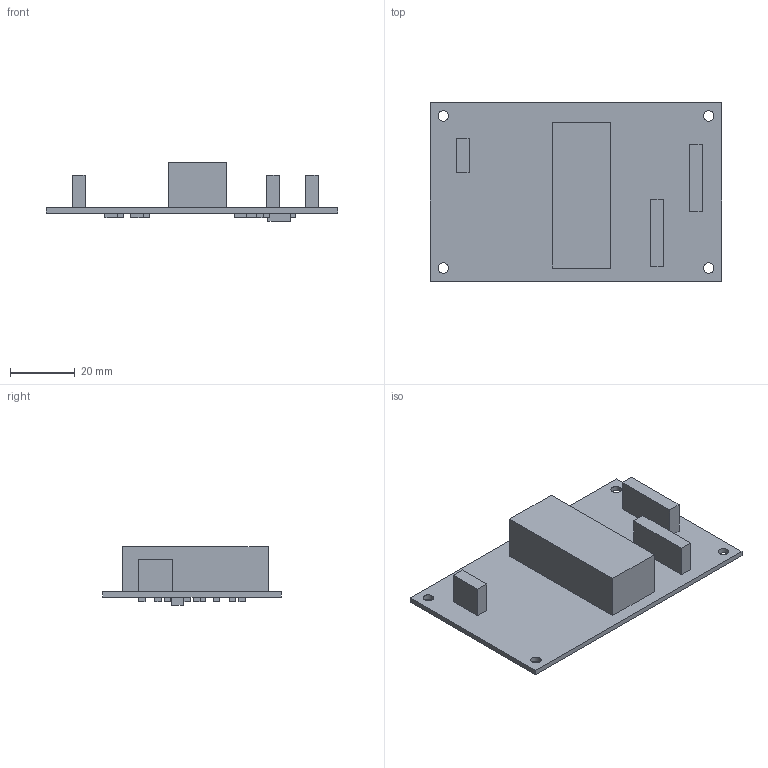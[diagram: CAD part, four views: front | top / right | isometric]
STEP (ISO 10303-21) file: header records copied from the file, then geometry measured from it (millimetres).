
FILE_DESCRIPTION(('Open CASCADE Model'),'2;1');
FILE_NAME('Open CASCADE Shape Model','2026-10-11T16:41:56',('Author'),( 'Open CASCADE'),'Open CASCADE STEP processor 7.8','Open CASCADE 7.8' ,'Unknown');
FILE_SCHEMA(('AUTOMOTIVE_DESIGN { 1 0 10303 214 1 1 1 1 }'));
Length unit declared in the file: millimetre
Products named in the file (19): REV_V_ENVELOPES_ONLY; board; U1; J1; J5; J6; R1; R7; R8; C6; C3; C4; C5; R5; R6; Q2; R3; R4; D2
Assembly tree (18 placements, depth 2):
  REV_V_ENVELOPES_ONLY
    board
    U1
    J1
    J5
    J6
    R1
    R7
    R8
    C6
    C3
    C4
    C5
    R5
    R6
    Q2
    R3
    R4
    D2
Bounding box: 90 x 55 x 18.2 mm (x, y, z)
Volume: 21505.1 mm3; surface area: 15958.7 mm2
Topology: 18 solids, 18 shells, 112 faces, 228 edges, 152 vertices
Faces by surface type: plane 108, cylinder 4
Full cylindrical faces by diameter (mm): 3.2 x4
Entity records: 6330 total; most frequent: CARTESIAN_POINT 1015, DIRECTION 946, LINE 668, VECTOR 668, ORIENTED_EDGE 456, PCURVE 456, DEFINITIONAL_REPRESENTATION 456, EDGE_CURVE 228
